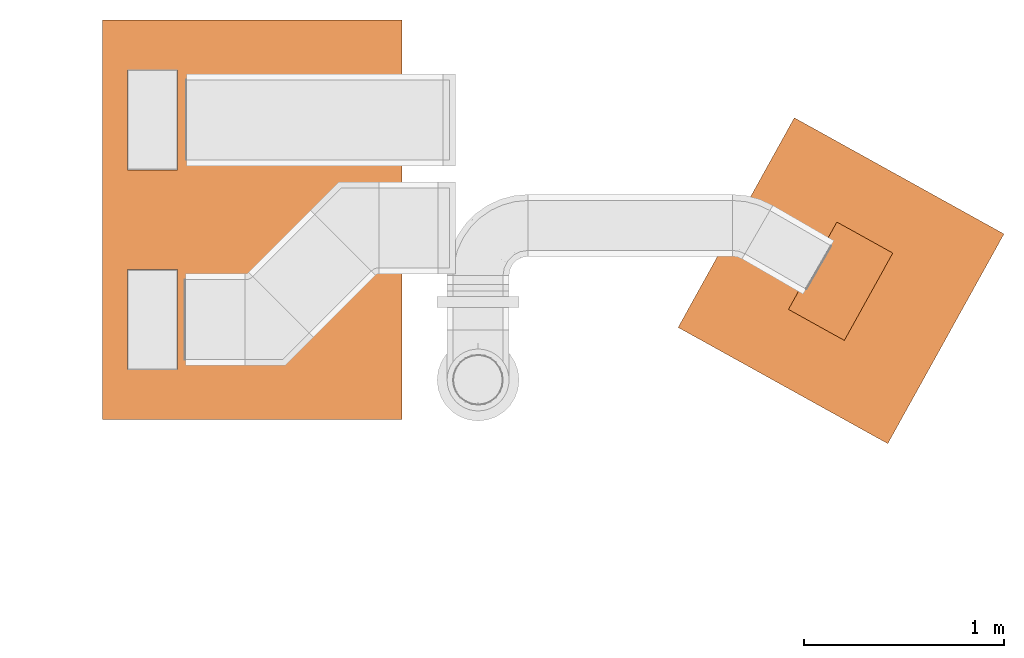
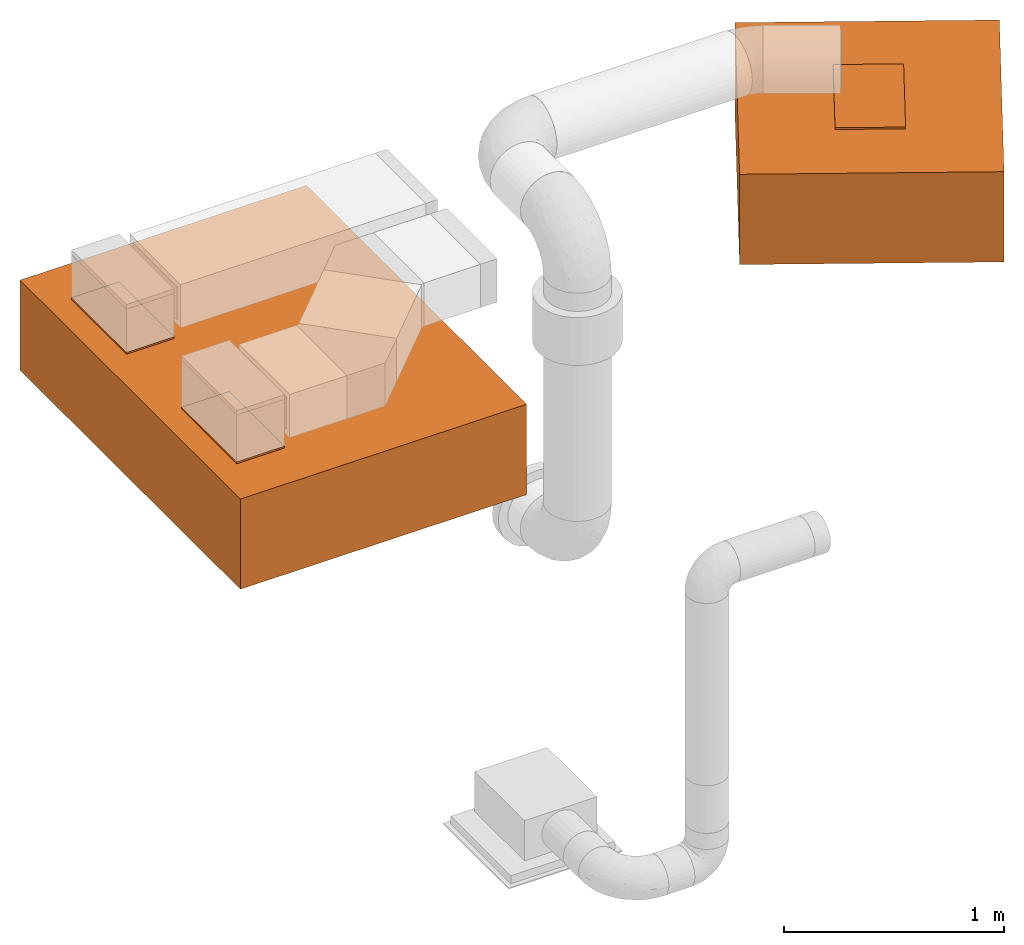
# One storey, part 9 of 9: 2 proxies.
"""IFC2X3 building model written with IfcOpenShell, lengths in millimetres."""

from ifc_helpers import new_model, entity, si_unit, converted_unit, derived_unit, direction, frame, origin_with_axes, place, context, subcontext, project, spatial, open_shell, surface_model, source, transform, mapped, element, save


model = new_model("IFC2X3")

# Units and contexts
model_context = context("Model", 3, precision=0.01, world=frame((0.0, 4.29681676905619e-09, 0.0)), true_north=direction((4.01073788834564e-13, 1.0)))
plan_context = context("Plan", 3, precision=0.01, world=frame((0.0, 4.29681676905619e-09, 0.0)), true_north=direction((4.01073788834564e-13, 1.0)))
body_context = subcontext(model_context, "Body", "Model", "MODEL_VIEW")
ifc_project = project(units=[converted_unit("PLANEANGLEUNIT", "DEGREE", entity("IfcPositiveLengthMeasure", 0.0174532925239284), si_unit("PLANEANGLEUNIT", "RADIAN"), dimensions=[0, 0, 0, 0, 0, 0, 0]), si_unit("AREAUNIT", "SQUARE_METRE"), si_unit("LENGTHUNIT", "METRE", prefix="MILLI"), si_unit("MASSUNIT", "GRAM", prefix="KILO"), si_unit("POWERUNIT", "WATT"), si_unit("PRESSUREUNIT", "PASCAL"), si_unit("FORCEUNIT", "NEWTON", prefix="KILO"), si_unit("ELECTRICVOLTAGEUNIT", "VOLT"), si_unit("ELECTRICCURRENTUNIT", "AMPERE"), si_unit("THERMODYNAMICTEMPERATUREUNIT", "DEGREE_CELSIUS"), si_unit("TIMEUNIT", "SECOND"), si_unit("VOLUMEUNIT", "CUBIC_METRE"), derived_unit("LINEARVELOCITYUNIT", [(si_unit("LENGTHUNIT", "METRE"), 1), (si_unit("TIMEUNIT", "SECOND"), -1)]), derived_unit("VOLUMETRICFLOWRATEUNIT", [(si_unit("VOLUMEUNIT", "CUBIC_METRE"), 1), (si_unit("TIMEUNIT", "SECOND"), -1)]), derived_unit("THERMALTRANSMITTANCEUNIT", [(si_unit("POWERUNIT", "WATT"), 1), (si_unit("THERMODYNAMICTEMPERATUREUNIT", "KELVIN"), -1), (si_unit("AREAUNIT", "SQUARE_METRE"), -1)]), derived_unit("SOUNDPRESSUREUNIT", [(si_unit("PRESSUREUNIT", "PASCAL"), 1)])], contexts=[model_context, plan_context])

# Site, building, storey
site_placement = place(None, frame((0.0, -4.29681676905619e-09, 0.0), z_axis=(0.0, 0.0, 1.0), x_axis=(1.0, 0.0, 0.0)))
site = spatial("IfcSite", under=ifc_project, at=site_placement, CompositionType="ELEMENT")
building_placement = place(site_placement, frame((0.0, 4.29681676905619e-09, 0.0), z_axis=(0.0, 0.0, 1.0), x_axis=(1.0, 0.0, 0.0)))
building = spatial("IfcBuilding", under=site, at=building_placement, Name="mc-building", CompositionType="ELEMENT")
storey_placement = place(building_placement, frame((0.0, 0.0, 210200.0), z_axis=(0.0, 0.0, 1.0), x_axis=(1.0, 0.0, 0.0)))
storey = spatial("IfcBuildingStorey", under=building, at=storey_placement, Name="Nivå F -0,7m", CompositionType="ELEMENT", Elevation=210200.0)

# Proxies
shared_shape_1 = source(origin_with_axes(), body_context, "Body", "SurfaceModel", [
    surface_model("IfcShellBasedSurfaceModel", [(0.0, 300.0, 550.0), (2000.00002, 300.0, 550.0), (0.0, 1800.00001, 550.0), (2000.00002, 1800.00001, 550.0), (0.0, 1800.00001, 50.48458), (2000.00002, 1800.00001, 50.48458), (0.0, 300.0, 50.48458), (2000.00002, 300.0, 50.48458), (749.70199, 425.10022, 560.00001), (749.70199, 675.10022, 560.00001), (249.702, 425.10022, 560.00001), (249.702, 675.10022, 560.00001), (249.702, 425.10022, 550.0), (249.702, 675.10022, 550.0), (749.70199, 675.10022, 550.0), (749.70199, 425.10022, 550.0), (1749.99478, 425.0, 560.00001), (1749.99478, 675.0, 560.00001), (1249.99478, 425.0, 560.00001), (1249.99478, 675.0, 560.00001), (1249.99478, 425.0, 550.0), (1249.99478, 675.0, 550.0), (1749.99478, 675.0, 550.0), (1749.99478, 425.0, 550.0)], [open_shell([[[0, 1, 2]], [[3, 2, 1]], [[4, 5, 6]], [[7, 6, 5]], [[3, 1, 5]], [[7, 5, 1]], [[2, 3, 5]], [[5, 4, 2]], [[0, 2, 6]], [[4, 6, 2]], [[1, 0, 6]], [[6, 7, 1]], [[8, 9, 10]], [[11, 10, 9]], [[12, 13, 14]], [[14, 15, 12]], [[11, 9, 14]], [[14, 13, 11]], [[10, 11, 13]], [[13, 12, 10]], [[8, 10, 12]], [[12, 15, 8]], [[9, 8, 15]], [[15, 14, 9]], [[16, 17, 18]], [[19, 18, 17]], [[20, 21, 22]], [[22, 23, 20]], [[19, 17, 22]], [[22, 21, 19]], [[18, 19, 21]], [[21, 20, 18]], [[16, 18, 20]], [[20, 23, 16]], [[17, 16, 23]], [[23, 22, 17]]])]),
])
proxy_1_placement = place(storey_placement, frame((522000.93348, 457464.0, 2649.51542000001), z_axis=(0.0, 0.0, 1.0), x_axis=(0.0, -1.0, 0.0)))
element("IfcBuildingElementProxy", 1, at=proxy_1_placement, inside=storey, Name="hette 1100-2000-550_250x500", context=body_context, shape_type="MappedRepresentation", body=[
    mapped(shared_shape_1, transform((0.0, 0.0, 0.0), scale=1.0)),
])
shared_shape_2 = source(origin_with_axes(), body_context, "Body", "SurfaceModel", [
    surface_model("IfcShellBasedSurfaceModel", [(0.0, 0.0, 500.0), (0.0, 1200.0, 500.0), (0.0, 1200.0, 0.0), (0.0, 0.0, 0.0), (1200.0, 0.0, 500.0), (1200.0, 0.0, 0.0), (759.37451, 346.5997, 510.00001), (759.37451, 846.59971, 510.00001), (439.37453, 346.5997, 510.00001), (439.37453, 846.59971, 510.00001), (439.37453, 346.5997, 500.0), (439.37453, 846.59971, 500.0), (759.37451, 846.59971, 500.0), (759.37451, 346.5997, 500.0), (1200.0, 1200.0, 500.0), (1200.0, 1200.0, 0.0)], [open_shell([[[0, 1, 2]], [[2, 3, 0]], [[4, 0, 3]], [[3, 5, 4]], [[6, 7, 8]], [[9, 8, 7]], [[10, 11, 12]], [[12, 13, 10]], [[9, 7, 12]], [[12, 11, 9]], [[8, 9, 10]], [[11, 10, 9]], [[6, 8, 10]], [[10, 13, 6]], [[7, 6, 12]], [[13, 12, 6]], [[0, 4, 14]], [[14, 1, 0]], [[2, 15, 5]], [[5, 3, 2]], [[14, 4, 5]], [[5, 15, 14]], [[1, 14, 15]], [[15, 2, 1]]])]),
])
proxy_2_placement = place(storey_placement, frame((525182.2431, 455925.07787, 3210.0), z_axis=(0.0, 0.0, 1.0), x_axis=(0.874619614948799, -0.484809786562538, 0.0)))
element("IfcBuildingElementProxy", 2, at=proxy_2_placement, inside=storey, Name="hette 1200-1200-400 ø315 2", context=body_context, shape_type="MappedRepresentation", body=[
    mapped(shared_shape_2, transform((0.0, 0.0, 0.0), scale=1.0)),
])

save(model, "model.ifc")
